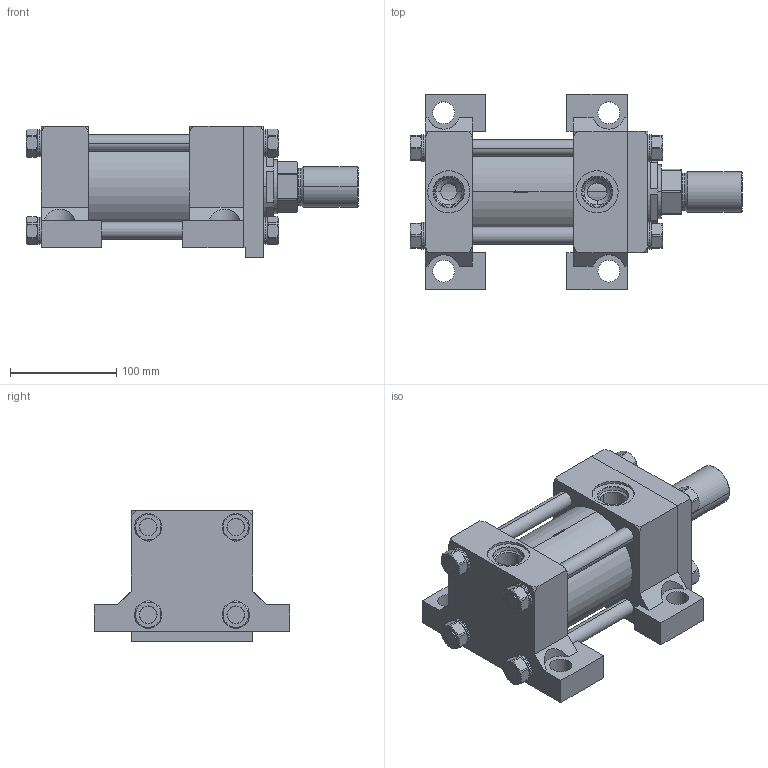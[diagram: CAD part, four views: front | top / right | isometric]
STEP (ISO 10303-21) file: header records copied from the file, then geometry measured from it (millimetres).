
FILE_DESCRIPTION (( 'STEP AP214' ), '1' );
FILE_NAME ('3.25CP2HHNAT124A2.000.step', '2026-03-26T21:16:15', ( '' ), ( '' ), 'SwSTEP 2.0', 'SolidWorks 2023', '' );
FILE_SCHEMA (( 'AUTOMOTIVE_DESIGN' ));
Length unit declared in the file: inch
Products named in the file (1): 3.25CP2HHNAT124A2.000
Bounding box: 312.74 x 184.15 x 123.83 mm (x, y, z)
Volume: 2330121.9 mm3; surface area: 417861.5 mm2
Topology: 47 solids, 47 shells, 1259 faces, 3249 edges, 2092 vertices
Faces by surface type: plane 813, cylinder 225, cone 161, bspline 52, torus 8
Entity records: 57119 total; most frequent: CARTESIAN_POINT 11557, ORIENTED_EDGE 6498, DIRECTION 5267, EDGE_CURVE 3249, VERTEX_POINT 2092, AXIS2_PLACEMENT_3D 1778, VECTOR 1711, LINE 1711
